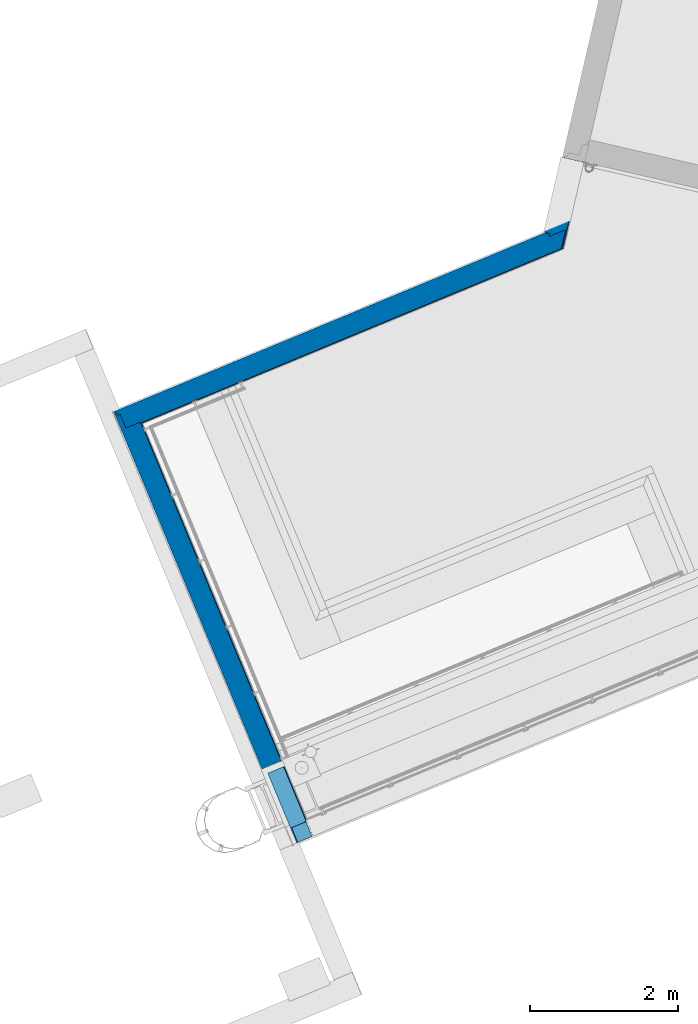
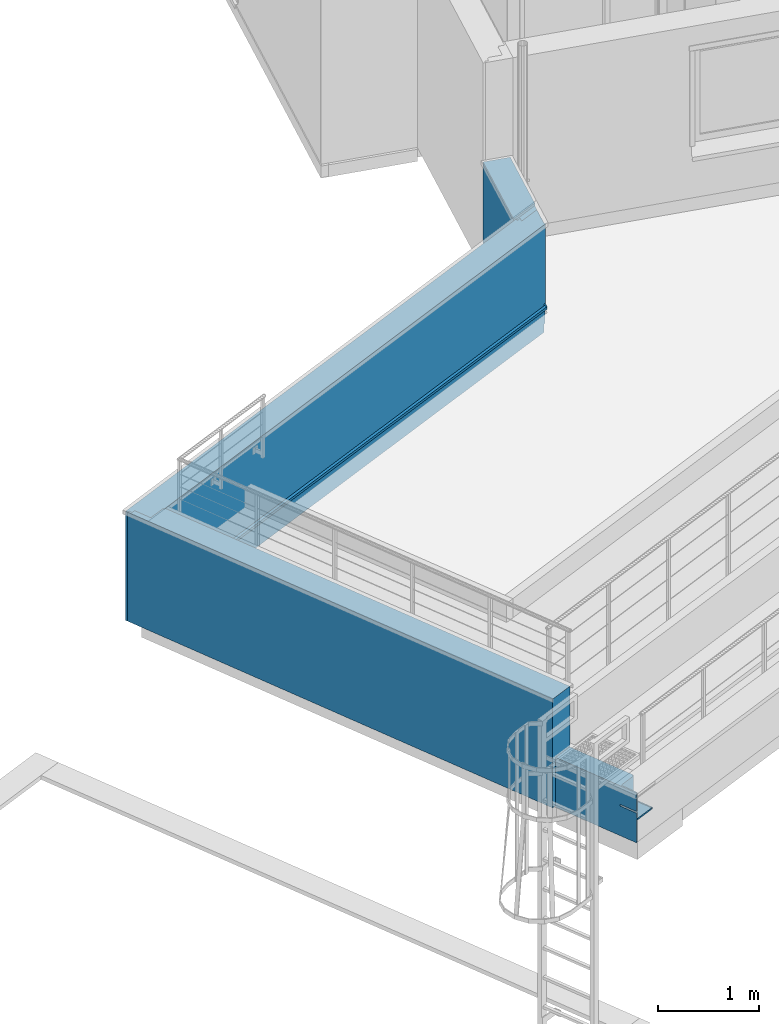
# One storey, part 4 of 47: 4 walls.
"""IFC2X3 building model written with IfcOpenShell, lengths in metres."""

from ifc_helpers import new_model, entity, si_unit, converted_unit, derived_unit, money_unit, direction, frame, origin_with_axes, place, context, subcontext, project, spatial, faceted_brep, material, material_list, type_object, element, save


model = new_model("IFC2X3")

# Units and contexts
model_context = context("Model", 3, precision=1e-05, world=origin_with_axes(), true_north=direction((0.0, 1.0)))
body_context = subcontext(model_context, "Body", "Model", "MODEL_VIEW")
ifc_project = project(units=[si_unit("LENGTHUNIT", "METRE"), si_unit("AREAUNIT", "SQUARE_METRE"), si_unit("VOLUMEUNIT", "CUBIC_METRE"), converted_unit("PLANEANGLEUNIT", "DEGREE", entity("IfcPlaneAngleMeasure", 0.0174532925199), si_unit("PLANEANGLEUNIT", "RADIAN"), dimensions=[0, 0, 0, 0, 0, 0, 0]), si_unit("SOLIDANGLEUNIT", "STERADIAN"), money_unit("EUR"), converted_unit("TIMEUNIT", "Year", entity("IfcTimeMeasure", 31556926.0), si_unit("TIMEUNIT", "SECOND"), dimensions=[0, 0, 1, 0, 0, 0, 0]), si_unit("MASSUNIT", "GRAM", prefix="KILO"), si_unit("THERMODYNAMICTEMPERATUREUNIT", "DEGREE_CELSIUS"), si_unit("LUMINOUSINTENSITYUNIT", "LUMEN"), si_unit("ENERGYUNIT", "JOULE", prefix="MEGA"), derived_unit("THERMALCONDUCTANCEUNIT", [(si_unit("POWERUNIT", "WATT"), 1), (si_unit("LENGTHUNIT", "METRE"), -1), (si_unit("THERMODYNAMICTEMPERATUREUNIT", "KELVIN"), -1)]), derived_unit("SPECIFICHEATCAPACITYUNIT", [(si_unit("ENERGYUNIT", "JOULE"), 1), (si_unit("MASSUNIT", "GRAM", prefix="KILO"), -1), (si_unit("THERMODYNAMICTEMPERATUREUNIT", "KELVIN"), -1)]), derived_unit("MASSDENSITYUNIT", [(si_unit("MASSUNIT", "GRAM", prefix="KILO"), 1), (si_unit("VOLUMEUNIT", "CUBIC_METRE"), -1)])], contexts=[model_context])

# Site, building, storey
site_placement = place(None, origin_with_axes())
site = spatial("IfcSite", under=ifc_project, at=site_placement, Name="Site", CompositionType="ELEMENT")
building_placement = place(site_placement, origin_with_axes())
building = spatial("IfcBuilding", under=site, at=building_placement, Name="Bâtiment", CompositionType="ELEMENT")
storey_placement = place(building_placement, frame((0.0, 0.0, 10.88), z_axis=(0.0, 0.0, 1.0), x_axis=(1.0, 0.0, 0.0)))
storey = spatial("IfcBuildingStorey", under=building, at=storey_placement, Name="R+4", CompositionType="ELEMENT", Elevation=10.88)

# Walls
ifc_material_1 = material(Name="Métal - Aluminium")
ifc_material_2 = material(Name="Finition ext - Crépis")
ifc_material_3 = material(Name="Etanchéité - Bitume")
ifc_material_4 = material(Name="Béton")
ifc_material_list_1 = material_list([ifc_material_1, ifc_material_2, ifc_material_3, ifc_material_4, ifc_material_2])
wall_type_1 = type_object("IfcWallType", Name="Acrotère pour plancher 23 isolée 242 x 600", PredefinedType="USERDEFINED")
wall_1_placement = place(storey_placement, frame((-23.548621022, -20.0129545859, 0.0), z_axis=(0.0, 0.0, 1.0), x_axis=(0.383112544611, -0.923701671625, 0.0)))
element("IfcWall", 1, at=wall_1_placement, inside=storey, type_object=wall_type_1, material=ifc_material_list_1, Name="Muret béton 20cm", ObjectType="PARAPET", context=body_context, shape_type="Brep", body=[
    faceted_brep([(0.801954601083, 0.2, 0.357041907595), (0.801954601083, 0.201045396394, 0.357041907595), (0.0, 0.201045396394, 0.357041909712), (0.0, 0.2, 0.357041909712), (0.801954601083, 0.201045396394, 0.340023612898), (0.801954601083, 0.2, 0.340023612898), (0.798425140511, 0.201045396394, 0.338976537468), (0.775515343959, 0.201045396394, 0.332179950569), (0.775515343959, 0.201045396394, 0.329999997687), (0.775515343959, 0.201045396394, 0.320023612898), (0.0, 0.201045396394, 0.320023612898), (0.0, 0.227484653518, 0.312179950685), (0.0, 0.227484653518, 0.282882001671), (0.0, 0.226250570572, 0.282882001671), (0.0, 0.226250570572, 0.311101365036), (0.0, 0.2, 0.318976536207), (0.775515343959, 0.2, 0.318976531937), (0.775515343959, 0.2, 0.329999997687), (0.775515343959, 0.2, 0.332179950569), (0.798425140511, 0.2, 0.338976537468), (0.775515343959, 0.20457487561, 0.318976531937), (0.775515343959, 0.227484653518, 0.312179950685), (0.775515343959, 0.227484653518, 0.310000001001), (0.775515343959, 0.227484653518, 0.302882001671), (0.776749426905, 0.227484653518, 0.302882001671), (0.793000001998, 0.227484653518, 0.302881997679), (0.802999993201, 0.227484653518, 0.302881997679), (1.00299999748, 0.227484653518, 0.302881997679), (1.01799999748, 0.227484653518, 0.302881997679), (1.01800000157, 0.227484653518, 0.282882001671), (1.01800000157, 0.226250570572, 0.282882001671), (0.775515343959, 0.226250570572, 0.310000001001), (0.775515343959, 0.226250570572, 0.311101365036), (1.01799999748, 0.226250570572, 0.302881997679), (1.00299999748, 0.226250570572, 0.302881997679), (0.802999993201, 0.226250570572, 0.302881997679), (0.793000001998, 0.226250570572, 0.302881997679), (0.776749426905, 0.226250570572, 0.302882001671), (0.775515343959, 0.226250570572, 0.302882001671)], [[[0, 1, 2, 3]], [[4, 1, 0, 5]], [[4, 6, 7, 8, 9, 10, 2, 1]], [[10, 11, 12, 13, 14, 15, 3, 2]], [[5, 0, 3, 15, 16, 17, 18, 19]], [[6, 4, 5, 19]], [[6, 19, 18, 7]], [[8, 7, 18, 17]], [[8, 17, 16, 20, 9]], [[9, 20, 21, 11, 10]], [[21, 22, 23, 24, 25, 26, 27, 28, 29, 12, 11]], [[12, 29, 30, 13]], [[31, 32, 14, 13, 30, 33, 34, 35, 36, 37, 38]], [[32, 16, 15, 14]], [[20, 16, 32, 31, 22, 21]], [[22, 31, 38, 23]], [[37, 24, 23, 38]], [[24, 37, 36, 25]], [[25, 36, 35, 26]], [[26, 35, 34, 27]], [[27, 34, 33, 28]], [[28, 33, 30, 29]]]),
    faceted_brep([(0.78799999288, 0.214999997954, 0.600000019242), (0.78799999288, 0.214999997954, 0.377041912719), (0.801954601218, 0.214999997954, 0.377041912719), (0.801954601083, 0.214999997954, 0.357041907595), (0.0, 0.214999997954, 0.357041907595), (0.0, 0.214999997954, 0.600000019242), (0.78799999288, 0.199999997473, 0.600000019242), (0.78799999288, 0.199999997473, 0.377041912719), (0.801954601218, 0.199999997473, 0.377041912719), (0.801954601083, 0.199999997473, 0.357041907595), (0.801954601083, 0.201045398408, 0.357041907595), (0.0, 0.201045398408, 0.357041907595), (0.0, 0.199999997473, 0.600000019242), (0.0, 0.199999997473, 0.357041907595)], [[[0, 1, 2, 3, 4, 5]], [[1, 0, 6, 7]], [[8, 2, 1, 7]], [[2, 8, 9, 10, 3]], [[3, 10, 11, 4]], [[12, 5, 4, 11, 13]], [[6, 0, 5, 12]], [[7, 6, 12, 13, 9, 8]], [[10, 9, 13, 11]]]),
    faceted_brep([(0.793000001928, 0.199999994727, 0.129999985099), (0.793000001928, 0.209999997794, 0.129999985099), (0.793000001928, 0.209999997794, 0.282882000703), (0.793000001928, 0.199999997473, 0.282882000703), (0.0, 0.209999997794, 0.129999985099), (0.0, 0.199999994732, 0.129999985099), (0.0, 0.209999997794, 0.310000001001), (0.793000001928, 0.209999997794, 0.310000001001), (0.793000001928, 0.209999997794, 0.302881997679), (1.01799999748, 0.209999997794, 0.302881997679), (1.01799999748, 0.209999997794, 0.282882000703), (1.01799999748, 0.199999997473, 0.282882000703), (1.01799999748, 0.199999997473, 0.302881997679), (0.793000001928, 0.199999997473, 0.302881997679), (0.793000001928, 0.199999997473, 0.310000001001), (0.0, 0.199999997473, 0.310000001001)], [[[0, 1, 2, 3]], [[4, 1, 0, 5]], [[1, 4, 6, 7, 8, 9, 10, 2]], [[11, 3, 2, 10]], [[5, 0, 3, 11, 12, 13, 14, 15]], [[4, 5, 15, 6]], [[15, 14, 7, 6]], [[13, 8, 7, 14]], [[9, 8, 13, 12]], [[10, 9, 12, 11]]]),
    faceted_brep([(0.803000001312, -5.41390932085e-10, 0.02), (0.803000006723, 0.199999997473, 0.02), (0.802999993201, 0.199999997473, 0.100000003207), (0.802999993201, 0.199999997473, 0.282882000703), (0.8029999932, 0.0, 0.282882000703), (0.0, 0.199999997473, 0.02), (0.0, -7.1637096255e-09, 0.02), (0.0, 0.199999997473, 0.100000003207), (0.802999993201, 0.199999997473, 0.310000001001), (0.802999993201, 0.199999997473, 0.302881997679), (1.01799999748, 0.199999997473, 0.302881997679), (1.01799999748, 0.199999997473, 0.282882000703), (0.0, 0.199999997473, 0.310000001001), (1.01799999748, 0.0, 0.282882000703), (1.01799999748, 0.0, 0.302881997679), (0.8029999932, 0.0, 0.302881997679), (0.8029999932, 0.0, 0.338976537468), (0.802999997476, 0.0, 0.357041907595), (0.801954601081, 0.0, 0.357041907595), (0.801954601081, 0.0, 0.377041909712), (0.8029999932, 0.0, 0.377041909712), (0.8029999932, 0.0, 0.600000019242), (0.0, 0.0, 0.600000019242), (0.0, 0.199999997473, 0.600000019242), (0.0, 0.199999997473, 0.318976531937), (0.802999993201, 0.199999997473, 0.318976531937), (0.802999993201, 0.199999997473, 0.338976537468), (0.802999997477, 0.199999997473, 0.357041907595), (0.801954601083, 0.199999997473, 0.357041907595), (0.801954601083, 0.199999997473, 0.377041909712), (0.802999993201, 0.199999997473, 0.377041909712), (0.802999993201, 0.199999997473, 0.600000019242)], [[[0, 1, 2, 3, 4]], [[5, 1, 0, 6]], [[1, 5, 7, 2]], [[8, 9, 10, 11, 3, 2, 7, 12]], [[13, 4, 3, 11]], [[6, 0, 4, 13, 14, 15, 16, 17, 18, 19, 20, 21, 22]], [[5, 6, 22, 23, 24, 12, 7]], [[9, 8, 25, 26, 16, 15]], [[10, 9, 15, 14]], [[11, 10, 14, 13]], [[24, 25, 8, 12]], [[26, 27, 17, 16]], [[18, 17, 27, 28]], [[18, 28, 29, 19]], [[29, 30, 20, 19]], [[20, 30, 31, 21]], [[22, 21, 31, 23]], [[23, 31, 30, 29, 28, 27, 26, 25, 24]]]),
    faceted_brep([(0.0, -0.015, 0.600000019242), (1.00299999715, -0.015, 0.600000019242), (1.00299999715, 4.8103743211e-10, 0.600000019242), (0.0, 4.81040984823e-10, 0.600000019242), (1.00299999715, -0.015, 0.377041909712), (0.0, -0.015, 0.0), (1.00300000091, -0.0149999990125, 0.0), (1.00299999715, -0.015, 0.282882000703), (1.01799999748, -0.015, 0.282882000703), (1.01799999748, -0.015, 0.302881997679), (1.00299999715, -0.015, 0.302881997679), (1.00299999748, -0.015, 0.357041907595), (0.801954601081, -0.015, 0.357041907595), (0.801954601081, -0.015, 0.377041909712), (1.00299999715, 4.8103743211e-10, 0.377041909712), (0.801954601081, 4.81040984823e-10, 0.377041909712), (0.801954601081, 4.81040984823e-10, 0.357041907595), (1.00299999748, 4.81040984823e-10, 0.357041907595), (1.00299999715, 4.8103743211e-10, 0.302881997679), (1.01799999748, 4.81040984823e-10, 0.302881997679), (1.01799999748, 4.81040984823e-10, 0.282882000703), (1.00299999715, 4.8103743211e-10, 0.282882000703), (1.00300000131, 4.81040984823e-10, 0.0), (0.0, 4.81040984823e-10, 0.0)], [[[0, 1, 2, 3]], [[4, 1, 0, 5, 6, 7, 8, 9, 10, 11, 12, 13]], [[4, 14, 2, 1]], [[3, 2, 14, 15, 16, 17, 18, 19, 20, 21, 22, 23]], [[5, 0, 3, 23]], [[23, 22, 6, 5]], [[22, 21, 7, 6]], [[7, 21, 20, 8]], [[20, 19, 9, 8]], [[10, 9, 19, 18]], [[18, 17, 11, 10]], [[17, 16, 12, 11]], [[12, 16, 15, 13]], [[15, 14, 4, 13]]]),
])
ifc_material_5 = material(Name="Bois - Lattage")
ifc_material_6 = material(Name="Finition ext - Bardage bois")
ifc_material_list_2 = material_list([ifc_material_1, ifc_material_2, ifc_material_3, ifc_material_4, ifc_material_5, ifc_material_6])
wall_type_2 = type_object("IfcWallType", Name="Acrotère pour plancher 21 isolée BARDAGE BOIS 292 x 1310", PredefinedType="USERDEFINED")
wall_2_placement = place(storey_placement, frame((-19.8209977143, -12.7218154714, 0.02), z_axis=(0.0, 0.0, 1.0), x_axis=(-0.923701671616, -0.383112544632, 0.0)))
element("IfcWall", 2, at=wall_2_placement, inside=storey, type_object=wall_type_2, material=ifc_material_list_2, Name="Muret béton 20cm", ObjectType="PARAPET", context=body_context, shape_type="Brep", body=[
    faceted_brep([(6.03653873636, 0.266045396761, 0.320023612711), (6.03653873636, 0.269574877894, 0.318976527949), (6.01388348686, 0.292484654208, 0.312179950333), (-0.150567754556, 0.292484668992, 0.312179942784), (-0.136957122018, 0.266045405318, 0.320023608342), (6.03653873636, 0.265, 0.318976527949), (6.03653873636, 0.266045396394, 0.357041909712), (6.03653873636, 0.265, 0.357041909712), (6.01028817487, 0.291250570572, 0.311101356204), (6.01028817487, 0.292484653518, 0.311101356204), (6.01028817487, 0.292484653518, 0.310000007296), (6.01028817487, 0.292484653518, 0.282881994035), (-0.150567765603, 0.292484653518, 0.282881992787), (-0.154015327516, 0.287655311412, 0.312179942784), (-0.142039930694, 0.265, 0.318976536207), (-0.137703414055, 0.265, 0.320023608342), (-0.136957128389, 0.266045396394, 0.357041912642), (-0.137703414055, 0.265, 0.357041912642), (-0.15144875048, 0.291250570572, 0.311101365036), (6.01028817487, 0.291250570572, 0.310000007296), (6.01028817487, 0.291250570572, 0.282881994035), (-0.15144875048, 0.291250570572, 0.282881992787)], [[[0, 1, 2, 3, 4]], [[5, 1, 0, 6, 7]], [[1, 5, 8, 9, 2]], [[9, 10, 11, 12, 3, 2]], [[3, 13, 14, 15, 4]], [[6, 0, 4, 16]], [[7, 6, 16, 17]], [[5, 7, 17, 15, 14]], [[8, 5, 14, 13, 18]], [[10, 9, 8, 19]], [[10, 19, 20, 11]], [[11, 20, 21, 12]], [[21, 18, 13, 3, 12]], [[4, 15, 17, 16]], [[19, 8, 18, 21, 20]]]),
    faceted_brep([(6.03653873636, 0.265000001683, 1.31000006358), (6.03653873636, 0.279999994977, 1.31000006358), (-0.144140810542, 0.279999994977, 1.3100000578), (-0.154848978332, 0.265000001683, 1.3100000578), (6.03653873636, 0.279999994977, 0.357041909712), (6.03653873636, 0.265000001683, 0.357041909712), (6.03653873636, 0.266045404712, 0.357041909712), (-0.144140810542, 0.279999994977, 0.357041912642), (-0.154102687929, 0.266045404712, 0.357041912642), (-0.154848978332, 0.265000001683, 0.357041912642)], [[[0, 1, 2, 3]], [[4, 1, 0, 5, 6]], [[1, 4, 7, 2]], [[8, 9, 3, 2, 7]], [[5, 0, 3, 9]], [[6, 5, 9, 8]], [[4, 6, 8, 7]]]),
    faceted_brep([(-0.141566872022, 0.275000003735, 0.109999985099), (-0.148705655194, 0.265000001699, 0.109999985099), (-0.148705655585, 0.265000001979, 0.282881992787), (-0.141566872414, 0.275000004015, 0.282881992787), (-0.136418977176, 0.264999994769, 0.109999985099), (6.03653874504, 0.275000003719, 0.109999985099), (6.03653874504, 0.264999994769, 0.109999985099), (6.03653873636, 0.265000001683, 0.282881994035), (6.03653873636, 0.265000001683, 0.310000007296), (-0.148705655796, 0.265000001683, 0.310000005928), (-0.141566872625, 0.275000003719, 0.310000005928), (6.03653873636, 0.275000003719, 0.310000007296), (6.03653873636, 0.275000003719, 0.282881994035)], [[[0, 1, 2, 3]], [[4, 1, 0, 5, 6]], [[4, 6, 7, 8, 9, 2, 1]], [[3, 2, 9, 10]], [[5, 0, 3, 10, 11, 12]], [[6, 5, 12, 7]], [[7, 12, 11, 8]], [[11, 10, 9, 8]]]),
    faceted_brep([(6.23653873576, 0.265000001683, 1.31000006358), (-0.136418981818, 0.265000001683, 1.3100000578), (-0.27919461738, 0.065, 1.3100000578), (6.23653873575, 0.065, 1.31000006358), (-0.136418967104, 0.265000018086, 0.318976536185), (-0.136418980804, 0.265000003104, 0.357041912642), (6.23653873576, 0.265000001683, 0.357041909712), (6.23653873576, 0.265000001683, 0.318976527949), (-0.279194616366, 0.0650000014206, 0.357041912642), (-0.279194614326, 0.0650000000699, 0.318976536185), (-0.279194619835, 0.0650000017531, 0.310000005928), (-0.27919461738, 0.065, 0.282881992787), (-0.279194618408, 0.0649999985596, 0.100000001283), (-0.279194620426, 0.065, 0.0), (6.23653873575, 0.065, 0.0), (6.23653873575, 0.065, 0.100000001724), (6.23653873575, 0.065, 0.282881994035), (6.23653873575, 0.065, 0.310000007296), (6.23653873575, 0.065, 0.318976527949), (6.23653873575, 0.065, 0.357041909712), (6.23653873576, 0.265000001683, 0.310000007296), (-0.136418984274, 0.265000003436, 0.310000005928), (-0.136418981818, 0.265000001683, 0.282881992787), (-0.136418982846, 0.265000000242, 0.100000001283), (-0.136418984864, 0.265000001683, 0.0), (6.23653873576, 0.265000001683, 0.0), (6.23653873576, 0.265000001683, 0.100000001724), (6.23653873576, 0.265000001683, 0.282881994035)], [[[0, 1, 2, 3]], [[4, 5, 1, 0, 6, 7]], [[5, 8, 2, 1]], [[3, 2, 8, 9, 10, 11, 12, 13, 14, 15, 16, 17, 18, 19]], [[3, 19, 6, 0]], [[9, 8, 5, 4]], [[18, 7, 6, 19]], [[4, 7, 20, 21]], [[9, 4, 21, 10]], [[21, 22, 11, 10]], [[22, 23, 12, 11]], [[12, 23, 24, 13]], [[14, 13, 24, 25]], [[25, 26, 15, 14]], [[15, 26, 27, 16]], [[27, 20, 17, 16]], [[20, 7, 18, 17]], [[21, 20, 27, 26, 23, 22]], [[25, 24, 23, 26]]]),
    faceted_brep([(6.2765387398, 0.065000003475, 1.31000006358), (-0.0334612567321, 0.065000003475, 1.3100000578), (-0.0620163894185, 0.0249999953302, 1.3100000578), (6.2765387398, 0.0249999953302, 1.31000006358), (-0.0334612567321, 0.065000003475, 0.318976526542), (-0.0334612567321, 0.065000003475, 0.357041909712), (6.2765387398, 0.065000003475, 0.357041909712), (6.2765387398, 0.065000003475, 0.318976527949), (6.2765387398, 0.065000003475, 0.310000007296), (6.2765387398, 0.065000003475, 0.282881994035), (6.2765387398, 0.065000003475, 0.100000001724), (6.2765387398, 0.065000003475, 0.0), (-0.0334612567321, 0.065000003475, 0.0), (-0.0334612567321, 0.065000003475, 0.100000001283), (-0.0334612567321, 0.065000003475, 0.282881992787), (-0.0334612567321, 0.065000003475, 0.310000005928), (-0.0620163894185, 0.0249999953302, 0.357041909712), (-0.0620163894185, 0.0249999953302, 0.318976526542), (-0.0620163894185, 0.0249999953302, 0.310000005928), (-0.0620163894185, 0.0249999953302, 0.282881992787), (-0.0620163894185, 0.0249999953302, 0.100000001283), (-0.0620163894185, 0.0249999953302, 0.0), (6.2765387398, 0.0249999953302, 0.0), (6.2765387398, 0.0249999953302, 0.100000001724), (6.2765387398, 0.0249999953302, 0.282881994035), (6.2765387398, 0.0249999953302, 0.310000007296), (6.2765387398, 0.0249999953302, 0.318976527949), (6.2765387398, 0.0249999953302, 0.357041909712)], [[[0, 1, 2, 3]], [[4, 5, 1, 0, 6, 7, 8, 9, 10, 11, 12, 13, 14, 15]], [[5, 16, 2, 1]], [[3, 2, 16, 17, 18, 19, 20, 21, 22, 23, 24, 25, 26, 27]], [[27, 6, 0, 3]], [[17, 16, 5, 4]], [[7, 6, 27, 26]], [[8, 7, 26, 25]], [[9, 8, 25, 24]], [[10, 9, 24, 23]], [[11, 10, 23, 22]], [[22, 21, 12, 11]], [[21, 20, 13, 12]], [[20, 19, 14, 13]], [[19, 18, 15, 14]], [[18, 17, 4, 15]]]),
    faceted_brep([(6.30153874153, 0.025, 1.31000006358), (-0.0128697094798, 0.025, 1.3100000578), (-0.0307166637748, 0.0, 1.3100000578), (6.30153874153, 0.0, 1.31000006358), (-0.0128697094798, 0.025, 0.318976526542), (-0.0128697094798, 0.025, 0.357041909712), (6.30153874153, 0.025, 0.0), (-0.0128697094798, 0.025, 0.0), (-0.0128697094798, 0.025, 0.100000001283), (-0.0128697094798, 0.025, 0.282881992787), (-0.0128697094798, 0.025, 0.310000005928), (-0.0307166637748, 0.0, 0.357041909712), (-0.0307166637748, 0.0, 0.318976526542), (-0.0307166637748, 0.0, 0.310000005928), (-0.0307166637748, 0.0, 0.282881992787), (-0.0307166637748, 0.0, 0.100000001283), (-0.0307166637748, 0.0, 0.0), (6.30153874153, 0.0, 0.0)], [[[0, 1, 2, 3]], [[4, 5, 1, 0, 6, 7, 8, 9, 10]], [[5, 11, 2, 1]], [[3, 2, 11, 12, 13, 14, 15, 16, 17]], [[3, 17, 6, 0]], [[12, 11, 5, 4]], [[17, 16, 7, 6]], [[16, 15, 8, 7]], [[15, 14, 9, 8]], [[14, 13, 10, 9]], [[13, 12, 4, 10]]]),
])
wall_3_placement = place(storey_placement, frame((-19.5845316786, -11.6972094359, 0.02), z_axis=(0.0, 0.0, 1.0), x_axis=(-0.224876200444, -0.974387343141, 0.0)))
element("IfcWall", 3, at=wall_3_placement, inside=storey, type_object=wall_type_2, material=ifc_material_list_2, Name="Muret béton 20cm", ObjectType="PARAPET", context=body_context, shape_type="Brep", body=[
    faceted_brep([(1.1872114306, 0.266045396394, 0.320023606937), (1.18469185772, 0.26957481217, 0.318976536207), (1.19617286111, 0.292484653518, 0.312179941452), (0.0, 0.292484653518, 0.312179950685), (0.0, 0.266045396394, 0.320023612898), (1.18795772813, 0.264999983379, 0.318976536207), (1.1872114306, 0.266045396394, 0.357041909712), (1.18795771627, 0.265, 0.357041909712), (1.20147121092, 0.291250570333, 0.311101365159), (1.20059022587, 0.292484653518, 0.311101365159), (1.2005902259, 0.292484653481, 0.310000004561), (1.20059022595, 0.292484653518, 0.282882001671), (0.0, 0.292484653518, 0.282882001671), (0.0, 0.291250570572, 0.282882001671), (0.0, 0.291250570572, 0.311101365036), (0.0, 0.265, 0.318976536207), (0.0, 0.265, 0.357041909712), (0.0, 0.266045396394, 0.357041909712), (1.20147121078, 0.291250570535, 0.310000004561), (1.20147121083, 0.291250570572, 0.282882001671)], [[[0, 1, 2, 3, 4]], [[5, 1, 0, 6, 7]], [[1, 5, 8, 9, 2]], [[9, 10, 11, 12, 3, 2]], [[4, 3, 12, 13, 14, 15, 16, 17]], [[6, 0, 4, 17]], [[7, 6, 17, 16]], [[5, 7, 16, 15]], [[8, 5, 15, 14]], [[10, 9, 8, 18]], [[10, 18, 19, 11]], [[11, 19, 13, 12]], [[18, 8, 14, 13, 19]]]),
    faceted_brep([(0.837787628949, 0.265000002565, 1.3100000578), (0.827079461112, 0.279999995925, 1.3100000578), (0.0, 0.279999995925, 1.3100000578), (0.0, 0.265000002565, 1.3100000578), (0.827079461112, 0.279999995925, 1.28802452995), (0.837787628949, 0.265000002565, 1.28802452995), (0.827079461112, 0.279999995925, 1.28374689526), (0.827079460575, 0.279999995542, 1.28), (1.17724954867, 0.279999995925, 1.28), (1.17724954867, 0.279999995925, 0.357041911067), (0.0, 0.279999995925, 0.357041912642), (0.0, 0.266045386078, 0.357041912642), (0.0, 0.265000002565, 0.357041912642), (1.18795771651, 0.265000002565, 0.357041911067), (1.18795771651, 0.265000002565, 1.28), (0.837787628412, 0.265000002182, 1.28), (0.837787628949, 0.265000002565, 1.28374689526), (1.18721144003, 0.266045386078, 0.357041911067)], [[[0, 1, 2, 3]], [[4, 1, 0, 5]], [[1, 4, 6, 7, 8, 9, 10, 2]], [[3, 2, 10, 11, 12]], [[5, 0, 3, 12, 13, 14, 15, 16]], [[4, 5, 16, 6]], [[6, 16, 15, 7]], [[8, 7, 15, 14]], [[8, 14, 13, 17, 9]], [[9, 17, 11, 10]], [[17, 13, 12, 11]]]),
    faceted_brep([(1.1808189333, 0.275000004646, 0.109999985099), (0.0, 0.275000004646, 0.109999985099), (0.0, 0.275000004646, 0.310000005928), (1.1808189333, 0.275000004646, 0.310000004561), (1.1808189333, 0.275000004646, 0.282882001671), (0.0, 0.264999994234, 0.109999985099), (1.18795771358, 0.26499999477, 0.109999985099), (0.0, 0.265000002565, 0.310000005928), (1.18795771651, 0.265000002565, 0.310000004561), (1.18795771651, 0.265000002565, 0.282882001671)], [[[0, 1, 2, 3, 4]], [[5, 1, 0, 6]], [[1, 5, 7, 2]], [[7, 8, 3, 2]], [[9, 4, 3, 8]], [[6, 0, 4, 9]], [[5, 6, 9, 8, 7]]]),
    faceted_brep([(0.0, 0.065, 1.3100000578), (0.980563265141, 0.065, 1.3100000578), (0.837787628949, 0.265000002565, 1.3100000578), (0.0, 0.265000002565, 1.3100000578), (0.980563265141, 0.065, 1.28374689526), (0.980563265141, 0.065, 1.28802452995), (0.0, 0.065, 0.0), (1.08499999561, 0.065, 0.0), (1.08499999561, 0.065, 0.100000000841), (1.08499999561, 0.065, 0.282882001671), (1.08499999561, 0.065, 0.310000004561), (1.08499999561, 0.065, 0.318976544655), (1.08499999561, 0.065, 0.357041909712), (1.08499999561, 0.065, 1.28), (0.980563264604, 0.0649999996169, 1.28), (0.837787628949, 0.265000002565, 1.28802452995), (0.837787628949, 0.265000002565, 1.28374689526), (0.837787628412, 0.265000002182, 1.28), (0.942224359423, 0.265000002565, 1.28), (0.942224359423, 0.265000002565, 0.357041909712), (0.942224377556, 0.264999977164, 0.318976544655), (0.0, 0.265000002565, 0.318976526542), (0.0, 0.265000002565, 0.0), (0.0, 0.265000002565, 0.310000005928), (0.0, 0.265000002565, 0.100000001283), (0.942224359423, 0.265000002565, 0.0), (0.942224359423, 0.265000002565, 0.100000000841), (0.942224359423, 0.265000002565, 0.282882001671), (0.942224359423, 0.265000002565, 0.310000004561)], [[[0, 1, 2, 3]], [[4, 5, 1, 0, 6, 7, 8, 9, 10, 11, 12, 13, 14]], [[5, 15, 2, 1]], [[3, 2, 15, 16, 17, 18, 19, 20, 21]], [[22, 6, 0, 3, 21, 23, 24]], [[16, 15, 5, 4]], [[22, 25, 7, 6]], [[25, 26, 8, 7]], [[26, 27, 9, 8]], [[27, 28, 10, 9]], [[28, 20, 11, 10]], [[20, 19, 12, 11]], [[19, 18, 13, 12]], [[13, 18, 17, 14]], [[17, 16, 4, 14]], [[21, 20, 28, 23]], [[23, 28, 27, 26, 24]], [[24, 26, 25, 22]]]),
    faceted_brep([(0.0, 0.0249999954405, 1.3100000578), (1.00911839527, 0.0249999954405, 1.3100000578), (0.980563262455, 0.0650000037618, 1.3100000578), (0.0, 0.0650000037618, 1.3100000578), (1.00911839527, 0.0249999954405, 1.28374689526), (1.00911839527, 0.0249999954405, 1.28802452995), (0.0, 0.0249999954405, 0.0), (1.064408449, 0.0249999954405, 0.0), (1.064408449, 0.0249999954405, 0.100000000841), (1.064408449, 0.0249999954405, 0.282882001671), (1.064408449, 0.0249999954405, 0.310000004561), (1.064408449, 0.0249999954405, 0.318976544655), (1.064408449, 0.0249999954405, 0.357041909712), (1.064408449, 0.0249999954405, 1.28), (1.00911839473, 0.0249999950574, 1.28), (0.980563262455, 0.0650000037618, 1.28802452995), (0.980563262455, 0.0650000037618, 1.28374689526), (0.980563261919, 0.0650000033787, 1.28), (1.03585331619, 0.0650000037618, 1.28), (1.03585331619, 0.0650000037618, 0.357041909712), (1.03585331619, 0.0650000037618, 0.318976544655), (1.03585331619, 0.0650000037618, 0.310000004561), (1.03585331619, 0.0650000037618, 0.282882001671), (1.03585331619, 0.0650000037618, 0.100000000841), (1.03585331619, 0.0650000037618, 0.0), (0.0, 0.0650000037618, 0.0)], [[[0, 1, 2, 3]], [[4, 5, 1, 0, 6, 7, 8, 9, 10, 11, 12, 13, 14]], [[5, 15, 2, 1]], [[3, 2, 15, 16, 17, 18, 19, 20, 21, 22, 23, 24, 25]], [[3, 25, 6, 0]], [[16, 15, 5, 4]], [[25, 24, 7, 6]], [[24, 23, 8, 7]], [[23, 22, 9, 8]], [[22, 21, 10, 9]], [[21, 20, 11, 10]], [[20, 19, 12, 11]], [[19, 18, 13, 12]], [[13, 18, 17, 14]], [[17, 16, 4, 14]]]),
    faceted_brep([(0.0, 0.0, 1.3100000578), (1.02696534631, 0.0, 1.3100000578), (1.00911839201, 0.025, 1.3100000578), (0.0, 0.025, 1.3100000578), (1.02696534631, 0.0, 1.28374689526), (1.02696534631, 0.0, 1.28802452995), (0.0, 0.0, 0.0), (1.0515387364, 0.0, 0.0), (1.0515387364, 0.0, 0.100000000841), (1.0515387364, 0.0, 0.282882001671), (1.0515387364, 0.0, 0.310000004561), (1.0515387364, 0.0, 0.318976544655), (1.0515387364, 0.0, 0.357041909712), (1.0515387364, 0.0, 1.28), (1.02696534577, -3.83124643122e-10, 1.28), (1.00911839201, 0.025, 1.28802452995), (1.00911839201, 0.025, 1.28374689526), (1.00911839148, 0.0249999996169, 1.28), (1.03369178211, 0.025, 1.28), (1.03369178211, 0.025, 0.357041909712), (1.03369178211, 0.025, 0.318976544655), (1.03369178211, 0.025, 0.310000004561), (1.03369178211, 0.025, 0.282882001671), (1.03369178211, 0.025, 0.100000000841), (1.03369178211, 0.025, 0.0), (0.0, 0.025, 0.0)], [[[0, 1, 2, 3]], [[4, 5, 1, 0, 6, 7, 8, 9, 10, 11, 12, 13, 14]], [[5, 15, 2, 1]], [[3, 2, 15, 16, 17, 18, 19, 20, 21, 22, 23, 24, 25]], [[0, 3, 25, 6]], [[16, 15, 5, 4]], [[25, 24, 7, 6]], [[24, 23, 8, 7]], [[23, 22, 9, 8]], [[22, 21, 10, 9]], [[21, 20, 11, 10]], [[20, 19, 12, 11]], [[19, 18, 13, 12]], [[13, 18, 17, 14]], [[17, 16, 4, 14]]]),
])
wall_4_placement = place(storey_placement, frame((-25.641739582, -15.1360140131, 0.02), z_axis=(0.0, 0.0, 1.0), x_axis=(0.383112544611, -0.923701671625, 0.0)))
element("IfcWall", 4, at=wall_4_placement, inside=storey, type_object=wall_type_2, material=ifc_material_list_2, Name="Muret béton 20cm", ObjectType="PARAPET", context=body_context, shape_type="Brep", body=[
    faceted_brep([(0.269574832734, 0.265, 0.318976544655), (0.269574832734, 0.269574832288, 0.318976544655), (0.292484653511, 0.292484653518, 0.31217995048), (0.292484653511, 0.287655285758, 0.31217995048), (0.266045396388, 0.266045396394, 0.320023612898), (0.266045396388, 0.265, 0.320023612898), (5.30673813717, 0.266045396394, 0.320023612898), (5.30673813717, 0.292484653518, 0.312179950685), (0.292484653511, 0.292484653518, 0.310000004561), (0.292484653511, 0.291250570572, 0.310000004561), (0.292484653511, 0.291250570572, 0.311101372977), (5.30673813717, 0.291250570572, 0.311101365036), (5.30673813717, 0.265, 0.318976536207), (5.30673813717, 0.265, 0.357041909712), (0.266045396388, 0.265, 0.357041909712), (0.266045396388, 0.266045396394, 0.357041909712), (5.30673813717, 0.266045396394, 0.357041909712), (5.30673813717, 0.291250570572, 0.282882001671), (5.30673813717, 0.292484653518, 0.282882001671), (0.292484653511, 0.292484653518, 0.282882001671), (0.292484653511, 0.291250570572, 0.282882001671)], [[[0, 1, 2, 3]], [[4, 1, 0, 5]], [[1, 4, 6, 7, 2]], [[2, 8, 9, 10, 3]], [[3, 10, 11, 12, 0]], [[5, 0, 12, 13, 14]], [[14, 15, 4, 5]], [[4, 15, 16, 6]], [[11, 17, 18, 7, 6, 16, 13, 12]], [[8, 2, 7, 18, 19]], [[9, 8, 19, 20]], [[10, 9, 20, 17, 11]], [[15, 14, 13, 16]], [[20, 19, 18, 17]]]),
    faceted_brep([(0.27999999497, 0.279999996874, 0.357041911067), (0.27999999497, 0.279999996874, 1.31000005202), (5.30673813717, 0.279999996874, 1.31000006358), (5.30673813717, 0.279999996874, 0.357041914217), (0.279999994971, 0.265000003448, 1.31000005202), (0.279999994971, 0.266045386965, 0.357041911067), (0.279999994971, 0.265000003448, 0.357041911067), (5.30673813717, 0.265000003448, 1.31000006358), (5.30673813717, 0.265000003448, 0.357041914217), (5.30673813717, 0.266045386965, 0.357041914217)], [[[0, 1, 2, 3]], [[4, 1, 0, 5, 6]], [[1, 4, 7, 2]], [[8, 9, 3, 2, 7]], [[5, 0, 3, 9]], [[6, 5, 9, 8]], [[4, 6, 8, 7]]]),
    faceted_brep([(5.30673813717, 0.264999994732, 0.109999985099), (5.30673813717, 0.275000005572, 0.109999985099), (5.30673813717, 0.275000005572, 0.310000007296), (5.30673813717, 0.265000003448, 0.310000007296), (0.275000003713, 0.275000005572, 0.109999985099), (0.275000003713, 0.264999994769, 0.109999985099), (0.275000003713, 0.275000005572, 0.310000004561), (0.275000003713, 0.265000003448, 0.310000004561)], [[[0, 1, 2, 3]], [[4, 1, 0, 5]], [[1, 4, 6, 2]], [[2, 6, 7, 3]], [[5, 0, 3, 7]], [[4, 5, 7, 6]]]),
    faceted_brep([(0.265000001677, 0.265000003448, 0.318976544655), (0.265000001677, 0.265000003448, 1.31000005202), (5.30673813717, 0.265000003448, 1.31000006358), (5.30673813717, 0.265000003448, 0.318976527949), (0.265000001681, 0.065, 0.318976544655), (0.265000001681, 0.065, 1.31000005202), (5.30673813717, 0.065, 1.31000006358), (5.30673813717, 0.265000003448, 0.100000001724), (5.30673813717, 0.265000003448, 0.310000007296), (5.30673813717, 0.065, 0.0), (5.30673813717, 0.265000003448, 0.0), (0.265000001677, 0.265000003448, 0.310000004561), (0.265000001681, 0.065, 0.0), (0.265000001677, 0.265000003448, 0.100000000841), (0.265000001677, 0.265000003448, 0.0)], [[[0, 1, 2, 3]], [[4, 5, 1, 0]], [[2, 1, 5, 6]], [[7, 8, 3, 2, 6, 9, 10]], [[8, 11, 0, 3]], [[6, 5, 4, 12, 9]], [[12, 4, 0, 11, 13, 14]], [[13, 11, 8, 7]], [[9, 12, 14, 10]], [[10, 14, 13, 7]]]),
    faceted_brep([(0.0650000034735, 0.0650000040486, 1.31000005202), (5.30673813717, 0.0650000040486, 1.31000006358), (5.30673813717, 0.0650000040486, 0.0), (0.0650000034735, 0.0650000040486, 0.0), (0.0650000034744, 0.0249999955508, 1.31000005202), (5.30673813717, 0.0249999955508, 1.31000006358), (5.30673813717, 0.0249999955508, 0.0), (0.0650000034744, 0.0249999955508, 0.0)], [[[0, 1, 2, 3]], [[1, 0, 4, 5]], [[6, 2, 1, 5]], [[6, 7, 3, 2]], [[7, 4, 0, 3]], [[5, 4, 7, 6]]]),
    faceted_brep([(0.0249999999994, 0.025, 1.31000005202), (5.30673813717, 0.025, 1.31000006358), (5.30673813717, 0.025, 0.0), (0.0249999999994, 0.025, 0.0), (0.025, 0.0, 1.31000005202), (5.30673813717, 0.0, 1.31000006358), (5.30673813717, 0.0, 0.0), (0.025, 0.0, 0.0)], [[[0, 1, 2, 3]], [[1, 0, 4, 5]], [[2, 1, 5, 6]], [[6, 7, 3, 2]], [[7, 4, 0, 3]], [[5, 4, 7, 6]]]),
])

save(model, "model.ifc")
